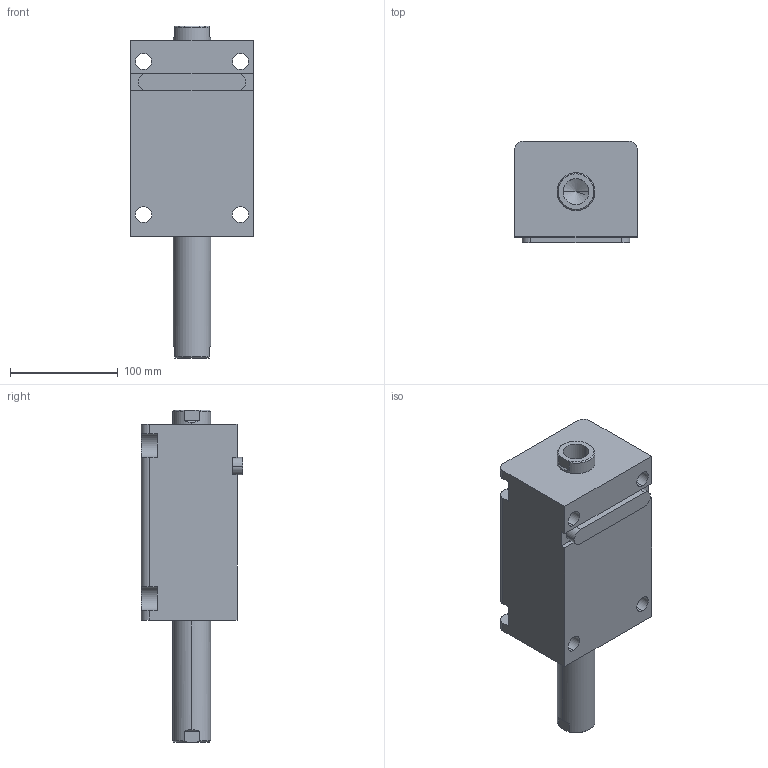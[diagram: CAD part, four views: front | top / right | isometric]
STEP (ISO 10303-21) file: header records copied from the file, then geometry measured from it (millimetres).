
FILE_DESCRIPTION (( 'STEP AP203' ), '1' );
FILE_NAME ('HTB-LW63-100N.STEP', '2019-10-09T08:30:42', ( '微软用户' ), ( '微软中国' ), 'SwSTEP 2.0', 'SolidWorks 2012', '' );
FILE_SCHEMA (( 'CONFIG_CONTROL_DESIGN' ));
Length unit declared in the file: millimetre
Products named in the file (4): HTB-LW63-100N; HTB-LA63-瑩; HTB-LW63-100N活塞杆; HTB-LW63-100掛极
Assembly tree (3 placements, depth 2):
  HTB-LW63-100N
    HTB-LW63-100掛极
    HTB-LW63-100N活塞杆
    HTB-LA63-瑩
Bounding box: 114 x 94.5 x 308 mm (x, y, z)
Volume: 1636244.3 mm3; surface area: 195124.9 mm2
Topology: 3 solids, 3 shells, 101 faces, 253 edges, 164 vertices
Faces by surface type: plane 44, cylinder 41, cone 12, torus 4
Entity records: 3467 total; most frequent: CARTESIAN_POINT 576, DIRECTION 549, ORIENTED_EDGE 498, EDGE_CURVE 249, AXIS2_PLACEMENT_3D 209, VERTEX_POINT 164, LINE 131, VECTOR 131
